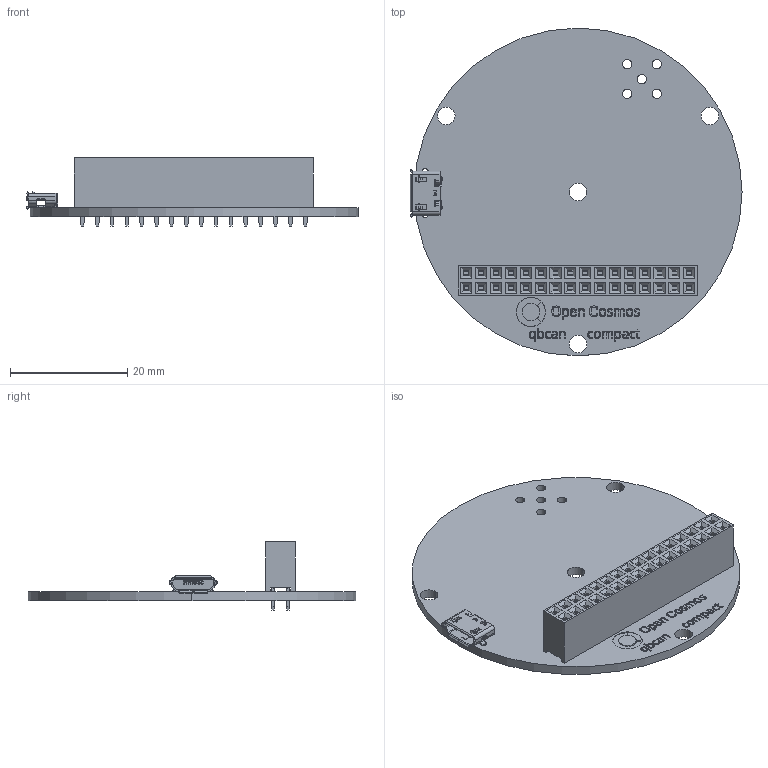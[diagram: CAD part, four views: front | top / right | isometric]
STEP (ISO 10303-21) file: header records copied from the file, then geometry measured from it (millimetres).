
FILE_DESCRIPTION (( 'STEP AP214' ), '1' );
FILE_NAME ('Open Cosmos_qbcan_compact.STEP', '2016-10-05T17:52:25', ( '' ), ( '' ), 'SwSTEP 2.0', 'SolidWorks 2015', '' );
FILE_SCHEMA (( 'AUTOMOTIVE_DESIGN' ));
Length unit declared in the file: millimetre
Products named in the file (4): Open Cosmos_qbcan_compact; MicroUSB-B_Molex_105017-0001; Open Cosmos_qbcan_compact_v1.1_PCB_v1.1; female_header_a-bl254-dg-g32d
Assembly tree (3 placements, depth 2):
  Open Cosmos_qbcan_compact
    Open Cosmos_qbcan_compact_v1.1_PCB_v1.1
    female_header_a-bl254-dg-g32d
    MicroUSB-B_Molex_105017-0001
Bounding box: 56.74 x 56.02 x 11.7 mm (x, y, z)
Volume: 4632.4 mm3; surface area: 9155.1 mm2
Topology: 3 solids, 3 shells, 1867 faces, 5341 edges, 3450 vertices
Faces by surface type: plane 1363, cylinder 324, bspline 180
Entity records: 71132 total; most frequent: CARTESIAN_POINT 24130, ORIENTED_EDGE 10666, DIRECTION 8168, EDGE_CURVE 5333, LINE 3804, VECTOR 3804, VERTEX_POINT 3450, AXIS2_PLACEMENT_3D 2182
